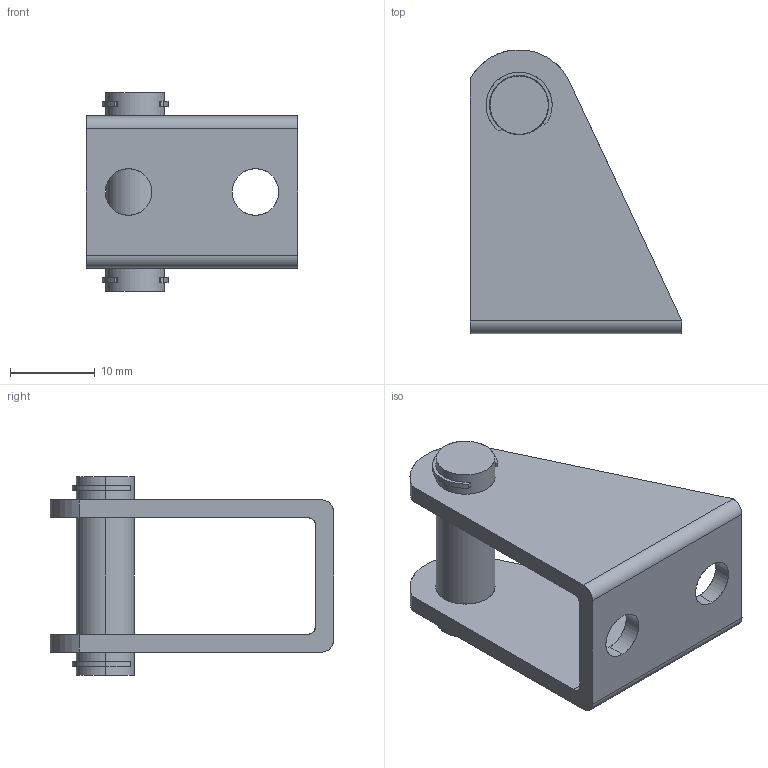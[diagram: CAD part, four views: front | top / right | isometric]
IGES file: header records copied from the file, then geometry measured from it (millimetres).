
Start section: SolidWorks IGES file using analytic representation for surfaces
Global section: file name: D:\ARICA 3D ÇÝZÝMLER\3D IGES\BAÐLANTI ELEMANLARI\SDB (PÝSTON EKLEM BAÐLANTI )\SDB-12-16.IGS; native system: SolidWorks 2013; preprocessor: SolidWorks 2013; author: user; date: 150224.145559; units: millimetre
Bounding box: 25 x 33.5 x 23.5 mm (x, y, z)
Surface area: 3940.7 mm2 (no closed solid volume)
Topology: 0 solids, 0 shells, 59 faces, 882 edges, 882 vertices
Faces by surface type: revolution 30, bspline 29
